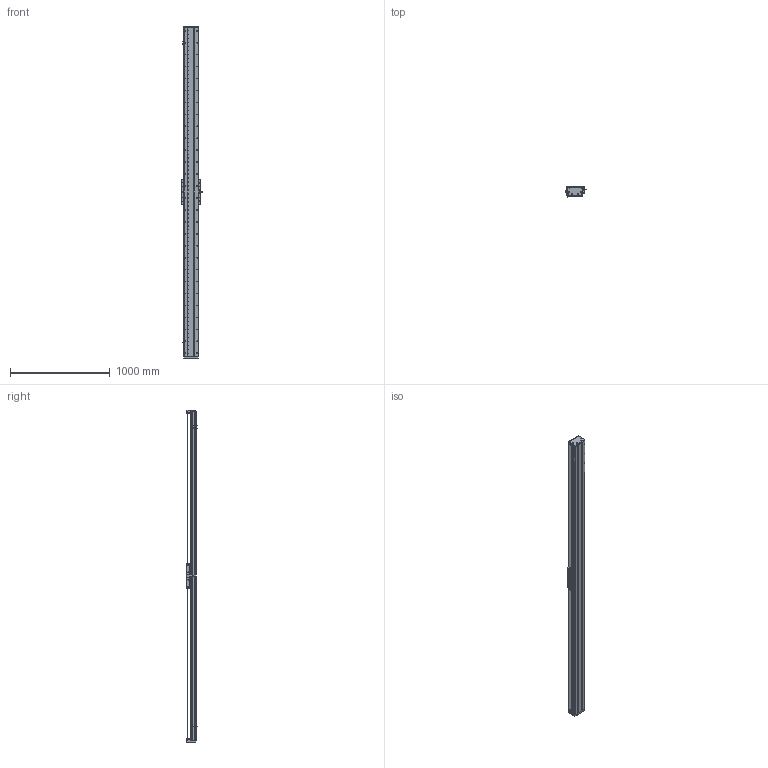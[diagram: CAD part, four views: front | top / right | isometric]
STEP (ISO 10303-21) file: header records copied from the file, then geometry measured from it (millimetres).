
FILE_DESCRIPTION (( 'STEP AP203' ), '1' );
FILE_NAME ('DA-C145-C3-T3000-C010-0.2 眻盄萇儂.STEP', '2025-08-14T01:36:31', ( '' ), ( '' ), 'SwSTEP 2.0', 'SolidWorks 2019', '' );
FILE_SCHEMA (( 'CONFIG_CONTROL_DESIGN' ));
Length unit declared in the file: millimetre
Products named in the file (32): 葩璃 DA95-GT-T-00^IU-CU145-L 菁釱絳寢; CU145-W-00 珨极趙賑雄怢啣; IU-CU145-L-00 菁釱(L3300); 复件 DA145-C3-DK-00 挡块^CU145-W 滚珠滑台; 葩璃 鞠褒情蹟譫 M3^DA-C145-C3-T-C010-0.2; 复件 DA145-GYP-00 光电感应片^DA-C145-C3-T-C010-0.2; 葩璃 DA95-HXJ-00 遣喳砎蝶^DA-C145-C3-T-C010-0.2; TAY01-M8; 复件 DA145 钢带^复件 CU145 钢带组件_DA-C145-C3-T-C010-0.2; 复件 纯铜油杯 6x6mm^CU145-W 滚珠滑台; 复件 DA145-C3-YB-A-00 压板A^CU145-W 滚珠滑台; 复件 DA145-DG 钢带端盖^复件 CU145 钢带组件_DA-C145-C3-T-C010-0.2; CU145-W 幗紩賑怢; 葩璃 CKM03-W060-C1C2-TP-0.2^DA-C145-C3-T-C010-0.2; 复件 内六角平端紧定螺钉 GB.T77-2000 M5×10^CU145-W 滚珠滑台; 复件 半圆头内六角螺钉 M3×6^CU145-W 滚珠滑台; 复件 DA146 钢带拉块^复件 CU145 钢带组件_DA-C145-C3-T-C010-0.2; 复件 DA145-C3-YB-B-00 压板B^CU145-W 滚珠滑台; 葩璃 DA145-C3-DP-B-00 菜えB^CU145-W 幗紩賑怢; 复件 DA95-DB-00  挡板^CU145-W 滚珠滑台; 复件 DA95-HK-GT-00 滑块钢轨^CU145-W-00 一体化滑动台板; 葩璃 XD-U-02L 棠掑喜^DA-C145-C3-T-C010-0.2; 66245-CU145-HT-W-00 賑雄怢啣(3D芞祧)(00); 葩璃 CU145 詩湍郪璃^DA-C145-C3-T-C010-0.2; 复件 DA146 钢带垫块^复件 CU145 钢带组件_DA-C145-C3-T-C010-0.2; DA-C145-C3-T3000-C010-0.2 眻盄萇儂; 葩璃 CKMA01-W060-TRL^DA-C145-C3-T-C010-0.2; 葩璃 DA145-C3-DP-A-00 菜えA^CU145-W 幗紩賑怢; 葩璃 DMA-010-0.2 黍杅芛^DA-C145-C3-T-C010-0.2; 葩璃 PM-T45^DA-C145-C3-T-C010-0.2; IU-CU145-L 菁釱絳寢; 复件 DA95-MFP-01 密封片^CU145-W 滚珠滑台
Assembly tree (103 placements, depth 4):
  DA-C145-C3-T3000-C010-0.2 眻盄萇儂
    IU-CU145-L 菁釱絳寢
      IU-CU145-L-00 菁釱(L3300)
      葩璃 DA95-GT-T-00^IU-CU145-L 菁釱絳寢  x4
    葩璃 CU145 詩湍郪璃^DA-C145-C3-T-C010-0.2
      复件 DA145-DG 钢带端盖^复件 CU145 钢带组件_DA-C145-C3-T-C010-0.2  x2
      复件 DA146 钢带拉块^复件 CU145 钢带组件_DA-C145-C3-T-C010-0.2  x2
      复件 DA146 钢带垫块^复件 CU145 钢带组件_DA-C145-C3-T-C010-0.2  x2
      复件 DA145 钢带^复件 CU145 钢带组件_DA-C145-C3-T-C010-0.2
    CU145-W 幗紩賑怢
      CU145-W-00 珨极趙賑雄怢啣
        66245-CU145-HT-W-00 賑雄怢啣(3D芞祧)(00)
        复件 DA95-HK-GT-00 滑块钢轨^CU145-W-00 一体化滑动台板  x8
      复件 DA95-MFP-01 密封片^CU145-W 滚珠滑台  x8
      复件 DA95-DB-00  挡板^CU145-W 滚珠滑台  x8
      复件 内六角平端紧定螺钉 GB.T77-2000 M5×10^CU145-W 滚珠滑台  x4
      复件 纯铜油杯 6x6mm^CU145-W 滚珠滑台  x4
      复件 半圆头内六角螺钉 M3×6^CU145-W 滚珠滑台  x16
      复件 DA145-C3-DK-00 挡块^CU145-W 滚珠滑台  x4
      葩璃 DA145-C3-DP-B-00 菜えB^CU145-W 幗紩賑怢  x2
      复件 DA145-C3-YB-B-00 压板B^CU145-W 滚珠滑台  x2
      葩璃 DA145-C3-DP-A-00 菜えA^CU145-W 幗紩賑怢  x3
      复件 DA145-C3-YB-A-00 压板A^CU145-W 滚珠滑台  x3
      TAY01-M8  x4
    葩璃 CKMA01-W060-TRL^DA-C145-C3-T-C010-0.2
    葩璃 PM-T45^DA-C145-C3-T-C010-0.2  x3
    葩璃 XD-U-02L 棠掑喜^DA-C145-C3-T-C010-0.2
    葩璃 DA95-HXJ-00 遣喳砎蝶^DA-C145-C3-T-C010-0.2  x4
    复件 DA145-GYP-00 光电感应片^DA-C145-C3-T-C010-0.2
    葩璃 DMA-010-0.2 黍杅芛^DA-C145-C3-T-C010-0.2
    葩璃 CKM03-W060-C1C2-TP-0.2^DA-C145-C3-T-C010-0.2
    葩璃 鞠褒情蹟譫 M3^DA-C145-C3-T-C010-0.2  x8
Bounding box: 203.5 x 108.45 x 3336 mm (x, y, z)
Volume: 15118328 mm3; surface area: 5126116.9 mm2
Topology: 99 solids, 131 shells, 4935 faces, 14462 edges, 9106 vertices
Faces by surface type: cylinder 2559, plane 1608, cone 690, torus 74, sphere 4
Entity records: 145020 total; most frequent: CARTESIAN_POINT 45282, ORIENTED_EDGE 20444, DIRECTION 19021, EDGE_CURVE 10222, AXIS2_PLACEMENT_3D 7160, VERTEX_POINT 6645, LINE 4701, VECTOR 4701
